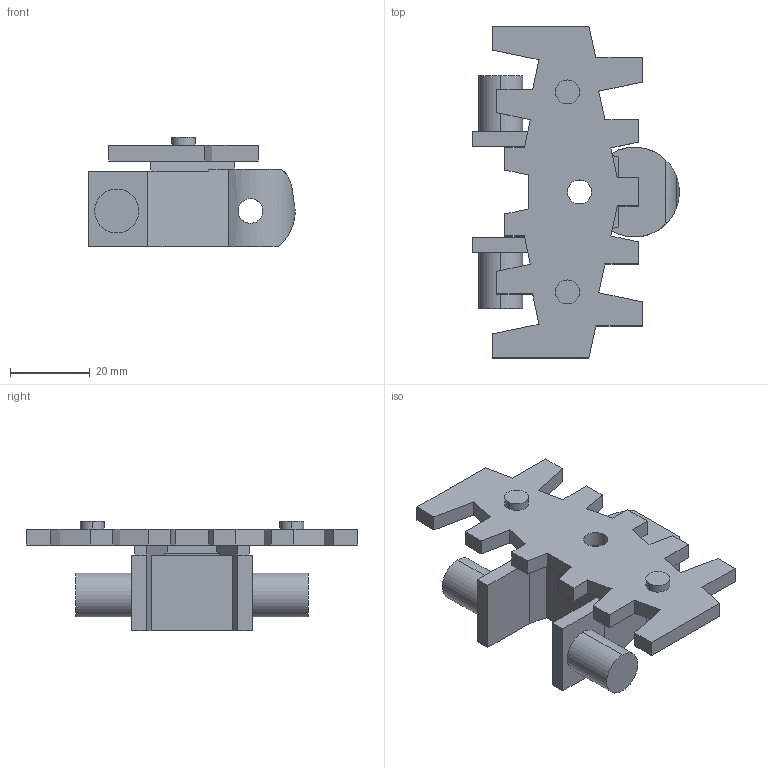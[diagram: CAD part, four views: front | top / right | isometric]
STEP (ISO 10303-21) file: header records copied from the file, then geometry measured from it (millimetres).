
FILE_DESCRIPTION (( 'STEP AP214' ), '1' );
FILE_NAME ('FMUC 5.step', '2017-04-04T13:35:17', ( '' ), ( '' ), 'SwSTEP 2.0', 'SolidWorks 2015', '' );
FILE_SCHEMA (( 'AUTOMOTIVE_DESIGN' ));
Length unit declared in the file: millimetre
Products named in the file (1): FMUC 5
Bounding box: 51.65 x 83 x 27.5 mm (x, y, z)
Volume: 23151.8 mm3; surface area: 12958.9 mm2
Topology: 1 solids, 1 shells, 97 faces, 271 edges, 179 vertices
Faces by surface type: plane 81, cylinder 16
Entity records: 3255 total; most frequent: CARTESIAN_POINT 712, ORIENTED_EDGE 542, DIRECTION 481, EDGE_CURVE 271, LINE 237, VECTOR 237, VERTEX_POINT 179, AXIS2_PLACEMENT_3D 122
